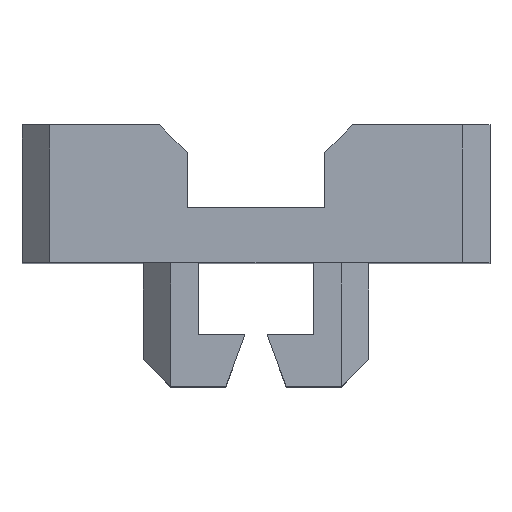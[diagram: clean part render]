
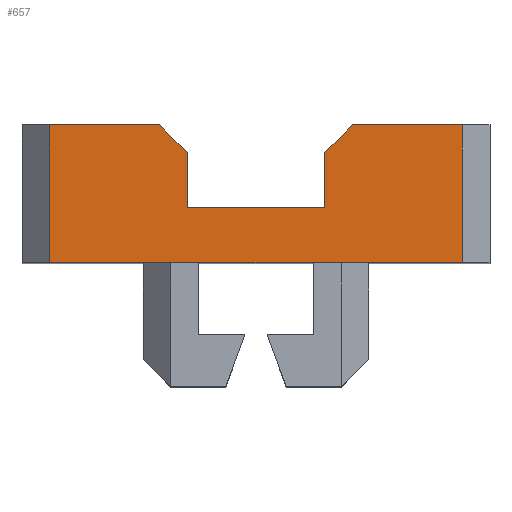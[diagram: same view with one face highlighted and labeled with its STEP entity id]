
A CAD part, top view. The second image highlights one B-rep face of the part: STEP entity #657.
In plain terms, the highlighted planar face has unit normal (0, 0, 1).
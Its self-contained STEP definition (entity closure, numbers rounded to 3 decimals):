
#10 = LINE ( 'NONE', #784, #1661 ) ;
#20 = VECTOR ( 'NONE', #1246, 1000. ) ;
#43 = DIRECTION ( 'NONE',  ( 0., 1., 0. ) ) ;
#62 = CARTESIAN_POINT ( 'NONE',  ( -10., 0., 12.5 ) ) ;
#63 = ORIENTED_EDGE ( 'NONE', *, *, #1292, .F. ) ;
#70 = VERTEX_POINT ( 'NONE', #1538 ) ;
#78 = DIRECTION ( 'NONE',  ( 1., 0., 0. ) ) ;
#92 = VERTEX_POINT ( 'NONE', #556 ) ;
#198 = CARTESIAN_POINT ( 'NONE',  ( -2.5, 2., 12.5 ) ) ;
#220 = LINE ( 'NONE', #736, #20 ) ;
#250 = VERTEX_POINT ( 'NONE', #1196 ) ;
#273 = EDGE_CURVE ( 'NONE', #855, #250, #10, .T. ) ;
#304 = CARTESIAN_POINT ( 'NONE',  ( 2.5, 2., 12.5 ) ) ;
#306 = LINE ( 'NONE', #958, #1476 ) ;
#316 = VECTOR ( 'NONE', #78, 1000. ) ;
#346 = VECTOR ( 'NONE', #1240, 1000. ) ;
#387 = CARTESIAN_POINT ( 'NONE',  ( 7.5, 5., 12.5 ) ) ;
#460 = VERTEX_POINT ( 'NONE', #1105 ) ;
#467 = CARTESIAN_POINT ( 'NONE',  ( -2.5, 2., 12.5 ) ) ;
#469 = ORIENTED_EDGE ( 'NONE', *, *, #1587, .T. ) ;
#482 = VERTEX_POINT ( 'NONE', #1249 ) ;
#507 = ORIENTED_EDGE ( 'NONE', *, *, #757, .T. ) ;
#509 = EDGE_CURVE ( 'NONE', #70, #482, #1297, .T. ) ;
#517 = LINE ( 'NONE', #1279, #1398 ) ;
#541 = ORIENTED_EDGE ( 'NONE', *, *, #509, .T. ) ;
#556 = CARTESIAN_POINT ( 'NONE',  ( -3.5, 5., 12.5 ) ) ;
#575 = DIRECTION ( 'NONE',  ( 0., 0., 1. ) ) ;
#579 = EDGE_LOOP ( 'NONE', ( #469, #1347, #819, #507, #541, #835, #63, #1268, #786, #1287 ) ) ;
#591 = EDGE_CURVE ( 'NONE', #482, #901, #1468, .T. ) ;
#622 = DIRECTION ( 'NONE',  ( -0.707, -0.707, 0. ) ) ;
#624 = VECTOR ( 'NONE', #1302, 1000. ) ;
#657 = ADVANCED_FACE ( 'NONE', ( #1068 ), #795, .T. ) ;
#704 = EDGE_CURVE ( 'NONE', #1513, #460, #1112, .T. ) ;
#725 = VECTOR ( 'NONE', #843, 1000. ) ;
#736 = CARTESIAN_POINT ( 'NONE',  ( -4.25, 5.75, 12.5 ) ) ;
#757 = EDGE_CURVE ( 'NONE', #1176, #70, #1512, .T. ) ;
#784 = CARTESIAN_POINT ( 'NONE',  ( -5.75, -4.25, 12.5 ) ) ;
#786 = ORIENTED_EDGE ( 'NONE', *, *, #1420, .F. ) ;
#788 = EDGE_CURVE ( 'NONE', #1624, #92, #220, .T. ) ;
#795 = PLANE ( 'NONE',  #826 ) ;
#815 = DIRECTION ( 'NONE',  ( 1., 0., 0. ) ) ;
#819 = ORIENTED_EDGE ( 'NONE', *, *, #1086, .F. ) ;
#826 = AXIS2_PLACEMENT_3D ( 'NONE', #62, #575, #1092 ) ;
#835 = ORIENTED_EDGE ( 'NONE', *, *, #591, .T. ) ;
#837 = CARTESIAN_POINT ( 'NONE',  ( -7.5, 5., 12.5 ) ) ;
#843 = DIRECTION ( 'NONE',  ( 0., 1., 0. ) ) ;
#855 = VERTEX_POINT ( 'NONE', #1045 ) ;
#874 = DIRECTION ( 'NONE',  ( 1., 0., 0. ) ) ;
#901 = VERTEX_POINT ( 'NONE', #387 ) ;
#918 = DIRECTION ( 'NONE',  ( 0., 1., 0. ) ) ;
#958 = CARTESIAN_POINT ( 'NONE',  ( 10., 5., 12.5 ) ) ;
#1045 = CARTESIAN_POINT ( 'NONE',  ( 3.5, 5., 12.5 ) ) ;
#1053 = CARTESIAN_POINT ( 'NONE',  ( -10., 0., 12.5 ) ) ;
#1068 = FACE_OUTER_BOUND ( 'NONE', #579, .T. ) ;
#1086 = EDGE_CURVE ( 'NONE', #1176, #92, #306, .T. ) ;
#1092 = DIRECTION ( 'NONE',  ( 1., 0., 0. ) ) ;
#1105 = CARTESIAN_POINT ( 'NONE',  ( 2.5, 2., 12.5 ) ) ;
#1112 = LINE ( 'NONE', #467, #316 ) ;
#1116 = CARTESIAN_POINT ( 'NONE',  ( -2.5, 4., 12.5 ) ) ;
#1140 = VECTOR ( 'NONE', #43, 1000. ) ;
#1176 = VERTEX_POINT ( 'NONE', #837 ) ;
#1195 = CARTESIAN_POINT ( 'NONE',  ( 7.5, 0., 12.5 ) ) ;
#1196 = CARTESIAN_POINT ( 'NONE',  ( 2.5, 4., 12.5 ) ) ;
#1240 = DIRECTION ( 'NONE',  ( 0., -1., 0. ) ) ;
#1246 = DIRECTION ( 'NONE',  ( -0.707, 0.707, 0. ) ) ;
#1249 = CARTESIAN_POINT ( 'NONE',  ( 7.5, 0., 12.5 ) ) ;
#1254 = CARTESIAN_POINT ( 'NONE',  ( -7.5, 0., 12.5 ) ) ;
#1268 = ORIENTED_EDGE ( 'NONE', *, *, #273, .T. ) ;
#1279 = CARTESIAN_POINT ( 'NONE',  ( 10., 5., 12.5 ) ) ;
#1287 = ORIENTED_EDGE ( 'NONE', *, *, #704, .F. ) ;
#1292 = EDGE_CURVE ( 'NONE', #855, #901, #517, .T. ) ;
#1297 = LINE ( 'NONE', #1053, #624 ) ;
#1302 = DIRECTION ( 'NONE',  ( 1., 0., 0. ) ) ;
#1347 = ORIENTED_EDGE ( 'NONE', *, *, #788, .T. ) ;
#1398 = VECTOR ( 'NONE', #874, 1000. ) ;
#1420 = EDGE_CURVE ( 'NONE', #460, #250, #1569, .T. ) ;
#1439 = CARTESIAN_POINT ( 'NONE',  ( -2.5, 2., 12.5 ) ) ;
#1468 = LINE ( 'NONE', #1195, #1140 ) ;
#1476 = VECTOR ( 'NONE', #815, 1000. ) ;
#1512 = LINE ( 'NONE', #1254, #346 ) ;
#1513 = VERTEX_POINT ( 'NONE', #1439 ) ;
#1531 = VECTOR ( 'NONE', #918, 1000. ) ;
#1538 = CARTESIAN_POINT ( 'NONE',  ( -7.5, 0., 12.5 ) ) ;
#1569 = LINE ( 'NONE', #304, #1531 ) ;
#1587 = EDGE_CURVE ( 'NONE', #1513, #1624, #1614, .T. ) ;
#1614 = LINE ( 'NONE', #198, #725 ) ;
#1624 = VERTEX_POINT ( 'NONE', #1116 ) ;
#1661 = VECTOR ( 'NONE', #622, 1000. ) ;
